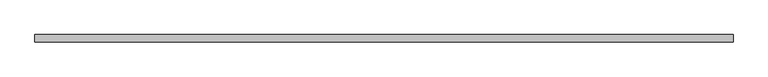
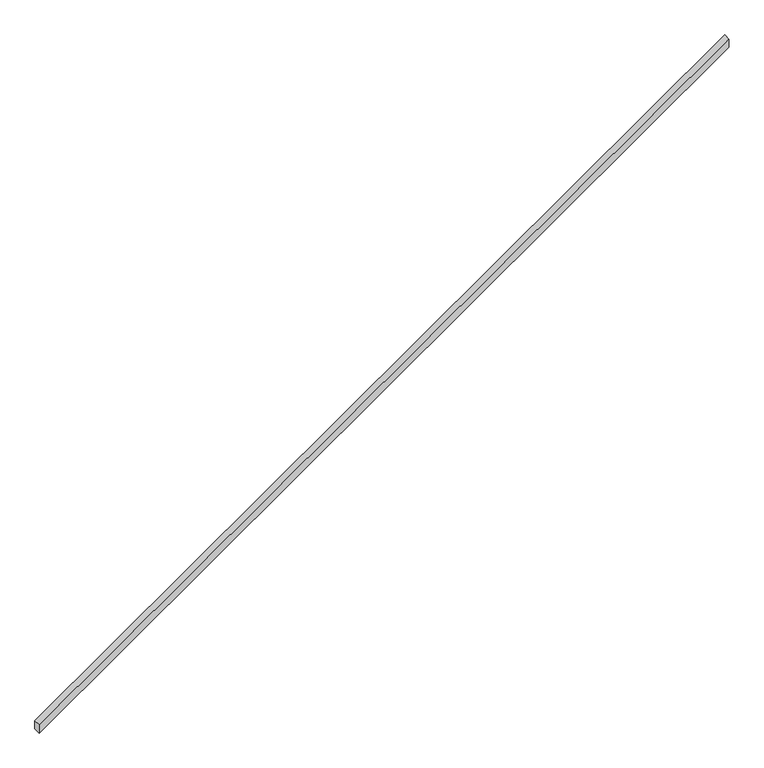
"""IFC4 building model written with IfcOpenShell, lengths in millimetres: railing geometry, 900mm 方管."""

import ifcopenshell
import ifcopenshell.guid

model = None  # the IFC model being written
_history = None  # IfcOwnerHistory: only IFC2X3 demands one
_inside = {}  # id of a spatial element -> (the spatial element, [elements in it])
_under = {}  # id of a project, library or spatial element -> (it, [spatial elements below it])
_declared = {}  # id of a project -> (the project, [libraries it declares])
_typed = {}  # id of a type object -> (the type object, [elements of that type])
_made_of = {}  # id of a material, layer set ... -> (it, [elements and type objects made of it])


def new_model(schema):
    """Start an empty IFC model of exactly this schema.

    Asked for "IFC4X3", IfcOpenShell would pick the latest addendum, in which some entities
    have other attributes; the version numbers below select the first issue.
    IFC2X3 requires an IfcOwnerHistory on every rooted entity: one is made here for all.
    """
    global model, _history
    if schema == "IFC4X3":
        model = ifcopenshell.file(schema_version=(4, 3, 0, 0))
    else:
        model = ifcopenshell.file(schema=schema)
    _inside.clear()
    _under.clear()
    _declared.clear()
    _typed.clear()
    _made_of.clear()
    _history = None
    if model.schema == "IFC2X3":
        org = make("IfcOrganization", Name="unknown")
        user = make(
            "IfcPersonAndOrganization",
            ThePerson=make("IfcPerson", FamilyName="unknown"),
            TheOrganization=org,
        )
        app = make(
            "IfcApplication",
            ApplicationDeveloper=org,
            Version="unknown",
            ApplicationFullName="unknown",
            ApplicationIdentifier="unknown",
        )
        _history = make(
            "IfcOwnerHistory",
            OwningUser=user,
            OwningApplication=app,
            ChangeAction="ADDED",
            CreationDate=0,
        )
    return model


def make(cls, **values):
    """One entity of the class cls with the attributes given. An attribute that is None is left unset."""
    return model.create_entity(
        cls, **{name: value for name, value in values.items() if value is not None}
    )


def rooted(cls, **values):
    """An entity with a GlobalId (a new one), such as an element, a storey or a relation."""
    return make(cls, GlobalId=ifcopenshell.guid.new(), OwnerHistory=_history, **values)


def si_unit(unit_type, name, prefix=None):
    """IfcSIUnit, for example si_unit("LENGTHUNIT", "METRE", prefix="MILLI")."""
    return make("IfcSIUnit", UnitType=unit_type, Prefix=prefix, Name=name)


def assignment(units):
    """IfcUnitAssignment: the units of a project."""
    return None if units is None else make("IfcUnitAssignment", Units=units)


def point(xyz):
    """IfcCartesianPoint."""
    return None if xyz is None else make("IfcCartesianPoint", Coordinates=xyz)


def direction(xyz):
    """IfcDirection."""
    return None if xyz is None else make("IfcDirection", DirectionRatios=xyz)


def frame(location, z_axis=None, x_axis=None):
    """IfcAxis2Placement3D, a coordinate frame: its origin and axes. An axis left out is left unset."""
    return make(
        "IfcAxis2Placement3D",
        Location=point(location),
        Axis=direction(z_axis),
        RefDirection=direction(x_axis),
    )


def origin():
    """The frame at (0, 0, 0) with its axes left unset."""
    return frame((0.0, 0.0, 0.0))


def place(relative_to, where):
    """IfcLocalPlacement: puts the frame where relative to a parent placement (None: the world)."""
    return make(
        "IfcLocalPlacement", PlacementRelTo=relative_to, RelativePlacement=where
    )


def context(
    kind, dimensions, precision=None, world=None, true_north=None, identifier=None
):
    """IfcGeometricRepresentationContext, for example the 3D "Model" context."""
    return make(
        "IfcGeometricRepresentationContext",
        ContextIdentifier=identifier,
        ContextType=kind,
        CoordinateSpaceDimension=dimensions,
        Precision=precision,
        WorldCoordinateSystem=world,
        TrueNorth=true_north,
    )


def project(units=None, contexts=None):
    """IfcProject with its units and contexts."""
    return rooted(
        "IfcProject",
        Name="project",
        RepresentationContexts=contexts,
        UnitsInContext=assignment(units),
    )


def spatial(cls, under=None, at=None, **own):
    """A site, building, storey or space (cls), placed at a placement, below another one or the project."""
    s = rooted(cls, ObjectPlacement=at, **own)
    if under is not None:
        _under.setdefault(under.id(), (under, []))[1].append(s)
    return s


def polyline(points):
    """IfcPolyline through the points."""
    return make("IfcPolyline", Points=[point(p) for p in points])


def outline(outer, holes=None, kind="AREA"):
    """IfcArbitraryClosedProfileDef: a profile drawn as a closed curve; with holes, ...WithVoids."""
    if holes is None:
        return make("IfcArbitraryClosedProfileDef", ProfileType=kind, OuterCurve=outer)
    return make(
        "IfcArbitraryProfileDefWithVoids",
        ProfileType=kind,
        OuterCurve=outer,
        InnerCurves=holes,
    )


def extrude(swept, where, along, depth):
    """IfcExtrudedAreaSolid: the profile swept, set in the frame where, extruded along a direction by depth."""
    return make(
        "IfcExtrudedAreaSolid",
        SweptArea=swept,
        Position=where,
        ExtrudedDirection=direction(along),
        Depth=depth,
    )


def shape(context_of_items, identifier, shape_type, items):
    """IfcShapeRepresentation: the items that make up one representation, for example the "Body"."""
    return make(
        "IfcShapeRepresentation",
        ContextOfItems=context_of_items,
        RepresentationIdentifier=identifier,
        RepresentationType=shape_type,
        Items=items,
    )


def source(mapping_origin, context_of_items, identifier, shape_type, items):
    """IfcRepresentationMap: a shape defined once, which mapped items show again and again."""
    return make(
        "IfcRepresentationMap",
        MappingOrigin=mapping_origin,
        MappedRepresentation=shape(context_of_items, identifier, shape_type, items),
    )


def transform(
    local_origin,
    x_axis=None,
    y_axis=None,
    z_axis=None,
    scale=None,
    scale2=None,
    scale3=None,
    uniform=True,
):
    """IfcCartesianTransformationOperator3D, or its non-uniform kind. x_axis, y_axis, z_axis: its Axis1, 2, 3."""
    if uniform:
        return make(
            "IfcCartesianTransformationOperator3D",
            Axis1=direction(x_axis),
            Axis2=direction(y_axis),
            LocalOrigin=point(local_origin),
            Scale=scale,
            Axis3=direction(z_axis),
        )
    return make(
        "IfcCartesianTransformationOperator3DnonUniform",
        Axis1=direction(x_axis),
        Axis2=direction(y_axis),
        LocalOrigin=point(local_origin),
        Scale=scale,
        Axis3=direction(z_axis),
        Scale2=scale2,
        Scale3=scale3,
    )


def mapped(mapping_source, mapping_target):
    """IfcMappedItem: shows the shape of a source again, moved by a transform."""
    return make(
        "IfcMappedItem", MappingSource=mapping_source, MappingTarget=mapping_target
    )


def made_of(thing, what):
    """Note that an element or type object is made of a material, layer set ...; save() writes the relation."""
    if what is not None:
        _made_of.setdefault(what.id(), (what, []))[1].append(thing)
    return thing


def element(
    cls,
    number,
    at=None,
    inside=None,
    cuts=None,
    type_object=None,
    material=None,
    context=None,
    identifier="Body",
    shape_type=None,
    held_by="IfcProductDefinitionShape",
    body=None,
    shapes=None,
    **own,
):
    """One element of the class cls, such as IfcWall. Its Tag is "e" and its number.

    at: its placement. inside: the storey or other place that contains it. cuts: it is an
    opening in that element (IfcRelVoidsElement). A single representation is given by context,
    identifier, shape_type and body (its items); several are given by shapes. held_by: the class
    of the entity that holds the representations. save() writes the other relations.
    """
    e = rooted(cls, Tag="e%d" % number, ObjectPlacement=at, **own)
    if body is not None:
        shapes = [shape(context, identifier, shape_type, body)]
    if shapes is not None:
        e.Representation = make(held_by, Representations=shapes)
    if inside is not None:
        _inside.setdefault(inside.id(), (inside, []))[1].append(e)
    if cuts is not None:
        rooted(
            "IfcRelVoidsElement", RelatingBuildingElement=cuts, RelatedOpeningElement=e
        )
    if type_object is not None:
        _typed.setdefault(type_object.id(), (type_object, []))[1].append(e)
    return made_of(e, material)


def aggregate(whole, parts):
    """IfcRelAggregates: a whole, such as a stair, and the parts it consists of."""
    return rooted("IfcRelAggregates", RelatingObject=whole, RelatedObjects=parts)


def save(model, path):
    """Write the relations noted so far, then the file.

    IfcRelAggregates (storeys below a building ...), IfcRelContainedInSpatialStructure (elements
    in a storey), IfcRelDefinesByType, IfcRelAssociatesMaterial and IfcRelDeclares: one each for
    every whole, place, type object, material and project.
    """
    for whole, parts in _under.values():
        aggregate(whole, parts)
    for where, things in _inside.values():
        rooted(
            "IfcRelContainedInSpatialStructure",
            RelatedElements=things,
            RelatingStructure=where,
        )
    for kind, things in _typed.values():
        rooted("IfcRelDefinesByType", RelatedObjects=things, RelatingType=kind)
    for what, things in _made_of.values():
        rooted("IfcRelAssociatesMaterial", RelatedObjects=things, RelatingMaterial=what)
    for by, libraries in _declared.values():
        rooted("IfcRelDeclares", RelatingContext=by, RelatedDefinitions=libraries)
    model.write(path)


def railing_cf06b474(model_context):
    return source(origin(), model_context, "Body", "SweptSolid", [
        extrude(outline(polyline([(1075.0, -2779.3433455), (1013.9672219, -2779.3433455), (4338.9672219, 1970.6566545), (4400.0, 1970.6566545), (1075.0, -2779.3433455)])), frame((0.0, -574.6445104, 0.0), z_axis=(0.0, 1.0, 0.0), x_axis=(0.0, 0.0, 1.0)), (0.0, 0.0, 1.0), 50.0),
    ])


if __name__ == "__main__":
    model = new_model("IFC4")
    model_context = context("Model", 3, world=origin())
    ifc_project = project(units=[si_unit("LENGTHUNIT", "METRE", prefix="MILLI")], contexts=[model_context])
    site = spatial("IfcSite", under=ifc_project)
    building = spatial("IfcBuilding", under=site)
    placement = place(None, origin())
    railing_shape = railing_cf06b474(model_context)
    element("IfcRailing", 1, ObjectType="900mm 方管", at=placement, inside=building, context=model_context, shape_type="MappedRepresentation", body=[
        mapped(railing_shape, transform((0.0, 0.0, 0.0), x_axis=(1.0, 0.0, 0.0), y_axis=(0.0, 1.0, 0.0), z_axis=(0.0, 0.0, 1.0))),
    ])
    save(model, "model.ifc")
